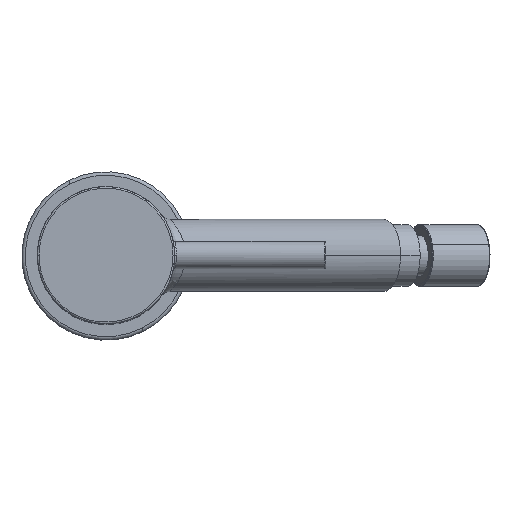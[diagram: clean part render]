
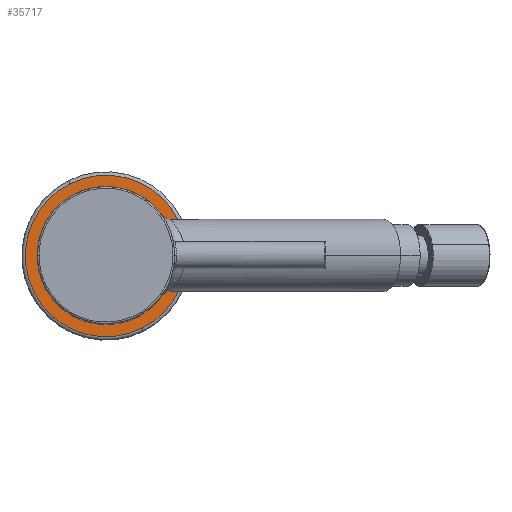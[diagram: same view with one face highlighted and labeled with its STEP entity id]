
A CAD part, top view. The second image highlights one B-rep face of the part: STEP entity #35717.
In plain terms, the highlighted planar face has unit normal (0, 0, 1).
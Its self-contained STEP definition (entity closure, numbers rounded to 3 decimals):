
#633 = CIRCLE ( 'NONE', #6773, 23.5 ) ;
#1446 = DIRECTION ( 'NONE',  ( -0.443, 0.897, 0. ) ) ;
#1722 = AXIS2_PLACEMENT_3D ( 'NONE', #27040, #30386, #1446 ) ;
#2744 = VERTEX_POINT ( 'NONE', #8084 ) ;
#4060 = DIRECTION ( 'NONE',  ( 0., 0., 1. ) ) ;
#6319 = CIRCLE ( 'NONE', #46702, 23.5 ) ;
#6773 = AXIS2_PLACEMENT_3D ( 'NONE', #21865, #36389, #29232 ) ;
#7203 = DIRECTION ( 'NONE',  ( -0.443, 0.897, 0. ) ) ;
#7301 = CARTESIAN_POINT ( 'NONE',  ( 10.408, -21.07, -110. ) ) ;
#8080 = CARTESIAN_POINT ( 'NONE',  ( 0., 0., -110. ) ) ;
#8084 = CARTESIAN_POINT ( 'NONE',  ( -20., 0., -110. ) ) ;
#8143 = FACE_OUTER_BOUND ( 'NONE', #8182, .T. ) ;
#8182 = EDGE_LOOP ( 'NONE', ( #29312, #10659 ) ) ;
#10166 = CARTESIAN_POINT ( 'NONE',  ( 0., 0., -110. ) ) ;
#10659 = ORIENTED_EDGE ( 'NONE', *, *, #27110, .T. ) ;
#11902 = DIRECTION ( 'NONE',  ( -1., 0., 0. ) ) ;
#12838 = VERTEX_POINT ( 'NONE', #7301 ) ;
#13128 = EDGE_LOOP ( 'NONE', ( #33921, #13326 ) ) ;
#13326 = ORIENTED_EDGE ( 'NONE', *, *, #44889, .F. ) ;
#19854 = PLANE ( 'NONE',  #1722 ) ;
#20865 = DIRECTION ( 'NONE',  ( 0., 0., 1. ) ) ;
#21098 = CIRCLE ( 'NONE', #25664, 20. ) ;
#21592 = VERTEX_POINT ( 'NONE', #28636 ) ;
#21865 = CARTESIAN_POINT ( 'NONE',  ( 0., 0., -110. ) ) ;
#25664 = AXIS2_PLACEMENT_3D ( 'NONE', #8080, #4060, #11902 ) ;
#27040 = CARTESIAN_POINT ( 'NONE',  ( -21.966, -10.85, -110. ) ) ;
#27110 = EDGE_CURVE ( 'NONE', #12838, #21592, #6319, .T. ) ;
#27224 = AXIS2_PLACEMENT_3D ( 'NONE', #10166, #27633, #27877 ) ;
#27633 = DIRECTION ( 'NONE',  ( 0., 0., 1. ) ) ;
#27877 = DIRECTION ( 'NONE',  ( -1., 0., 0. ) ) ;
#28636 = CARTESIAN_POINT ( 'NONE',  ( -10.408, 21.07, -110. ) ) ;
#29232 = DIRECTION ( 'NONE',  ( -0.443, 0.897, 0. ) ) ;
#29312 = ORIENTED_EDGE ( 'NONE', *, *, #41481, .T. ) ;
#30386 = DIRECTION ( 'NONE',  ( 0., 0., -1. ) ) ;
#33911 = VERTEX_POINT ( 'NONE', #37204 ) ;
#33921 = ORIENTED_EDGE ( 'NONE', *, *, #39286, .F. ) ;
#35577 = CIRCLE ( 'NONE', #27224, 20. ) ;
#35717 = ADVANCED_FACE ( 'NONE', ( #44665, #8143 ), #19854, .F. ) ;
#36389 = DIRECTION ( 'NONE',  ( 0., 0., 1. ) ) ;
#37204 = CARTESIAN_POINT ( 'NONE',  ( 20., 0., -110. ) ) ;
#39286 = EDGE_CURVE ( 'NONE', #2744, #33911, #21098, .T. ) ;
#39938 = CARTESIAN_POINT ( 'NONE',  ( 0., 0., -110. ) ) ;
#41481 = EDGE_CURVE ( 'NONE', #21592, #12838, #633, .T. ) ;
#44665 = FACE_BOUND ( 'NONE', #13128, .T. ) ;
#44889 = EDGE_CURVE ( 'NONE', #33911, #2744, #35577, .T. ) ;
#46702 = AXIS2_PLACEMENT_3D ( 'NONE', #39938, #20865, #7203 ) ;
